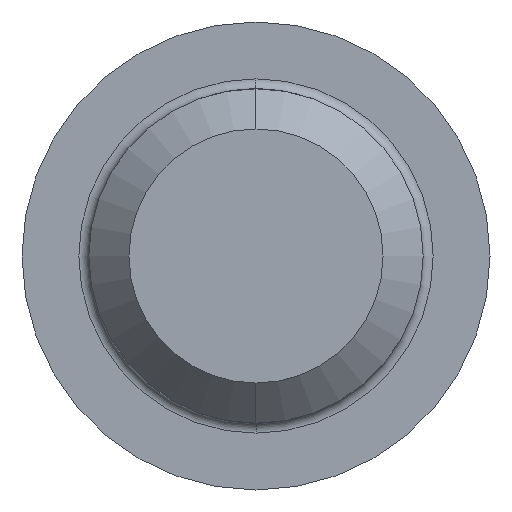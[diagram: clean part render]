
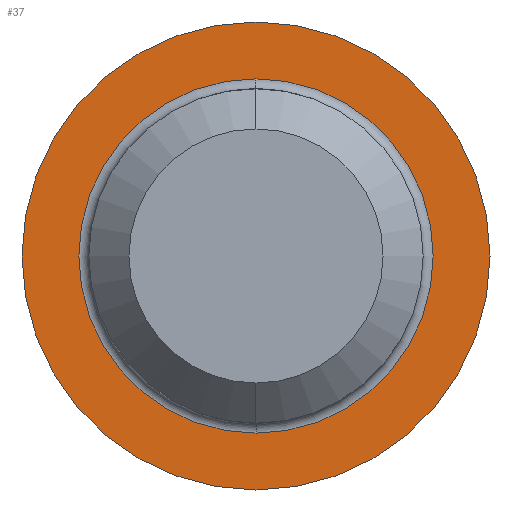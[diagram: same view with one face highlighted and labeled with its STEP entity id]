
A CAD part, left-side view. The second image highlights one B-rep face of the part: STEP entity #37.
In plain terms, the highlighted planar face has unit normal (-1, 0, 0).
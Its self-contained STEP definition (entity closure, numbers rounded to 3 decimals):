
#5 = VERTEX_POINT ( 'NONE', #190 ) ;
#37 = ADVANCED_FACE ( 'NONE', ( #279, #401 ), #285, .F. ) ;
#38 = VERTEX_POINT ( 'NONE', #386 ) ;
#39 = VERTEX_POINT ( 'NONE', #387 ) ;
#40 = EDGE_LOOP ( 'NONE', ( #106, #105 ) ) ;
#41 = ORIENTED_EDGE ( 'NONE', *, *, #63, .T. ) ;
#47 = EDGE_CURVE ( 'NONE', #39, #38, #404, .T. ) ;
#60 = VERTEX_POINT ( 'NONE', #368 ) ;
#63 = EDGE_CURVE ( 'NONE', #5, #60, #357, .T. ) ;
#64 = EDGE_CURVE ( 'NONE', #38, #39, #290, .T. ) ;
#69 = EDGE_LOOP ( 'NONE', ( #89, #41 ) ) ;
#89 = ORIENTED_EDGE ( 'NONE', *, *, #110, .T. ) ;
#105 = ORIENTED_EDGE ( 'NONE', *, *, #64, .T. ) ;
#106 = ORIENTED_EDGE ( 'NONE', *, *, #47, .T. ) ;
#110 = EDGE_CURVE ( 'NONE', #60, #5, #301, .T. ) ;
#190 = CARTESIAN_POINT ( 'NONE',  ( 0., 0., 5.3 ) ) ;
#279 = FACE_BOUND ( 'NONE', #69, .T. ) ;
#282 = DIRECTION ( 'NONE',  ( 0., 0., 1. ) ) ;
#285 = PLANE ( 'NONE',  #358 ) ;
#290 = CIRCLE ( 'NONE', #352, 7. ) ;
#291 = CARTESIAN_POINT ( 'NONE',  ( 0., 7., 0. ) ) ;
#296 = DIRECTION ( 'NONE',  ( 1., 0., 0. ) ) ;
#301 = CIRCLE ( 'NONE', #383, 5.3 ) ;
#351 = DIRECTION ( 'NONE',  ( 0., 0., -1. ) ) ;
#352 = AXIS2_PLACEMENT_3D ( 'NONE', #413, #399, #282 ) ;
#353 = DIRECTION ( 'NONE',  ( 0., 0., -1. ) ) ;
#354 = DIRECTION ( 'NONE',  ( 1., 0., 0. ) ) ;
#355 = CARTESIAN_POINT ( 'NONE',  ( 0., 0., 0. ) ) ;
#356 = AXIS2_PLACEMENT_3D ( 'NONE', #355, #354, #353 ) ;
#357 = CIRCLE ( 'NONE', #356, 5.3 ) ;
#358 = AXIS2_PLACEMENT_3D ( 'NONE', #291, #424, #425 ) ;
#368 = CARTESIAN_POINT ( 'NONE',  ( 0., 0., -5.3 ) ) ;
#379 = CARTESIAN_POINT ( 'NONE',  ( 0., 0., 0. ) ) ;
#383 = AXIS2_PLACEMENT_3D ( 'NONE', #379, #296, #351 ) ;
#386 = CARTESIAN_POINT ( 'NONE',  ( 0., 0., -7. ) ) ;
#387 = CARTESIAN_POINT ( 'NONE',  ( 0., 0., 7. ) ) ;
#392 = DIRECTION ( 'NONE',  ( 0., 0., 1. ) ) ;
#393 = DIRECTION ( 'NONE',  ( -1., 0., 0. ) ) ;
#394 = CARTESIAN_POINT ( 'NONE',  ( 0., 0., 0. ) ) ;
#395 = AXIS2_PLACEMENT_3D ( 'NONE', #394, #393, #392 ) ;
#399 = DIRECTION ( 'NONE',  ( -1., 0., 0. ) ) ;
#401 = FACE_OUTER_BOUND ( 'NONE', #40, .T. ) ;
#404 = CIRCLE ( 'NONE', #395, 7. ) ;
#413 = CARTESIAN_POINT ( 'NONE',  ( 0., 0., 0. ) ) ;
#424 = DIRECTION ( 'NONE',  ( 1., 0., 0. ) ) ;
#425 = DIRECTION ( 'NONE',  ( 0., 0., -1. ) ) ;
